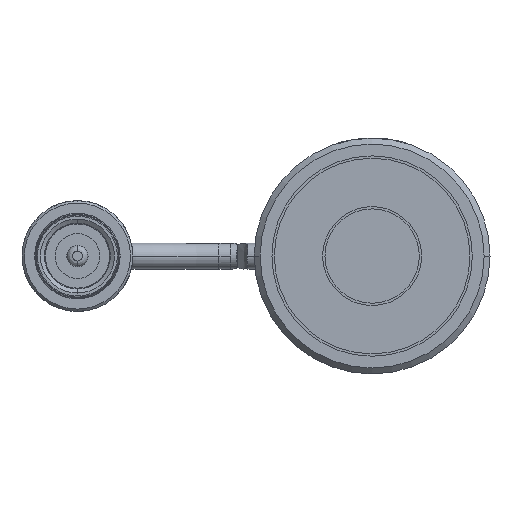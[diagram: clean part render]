
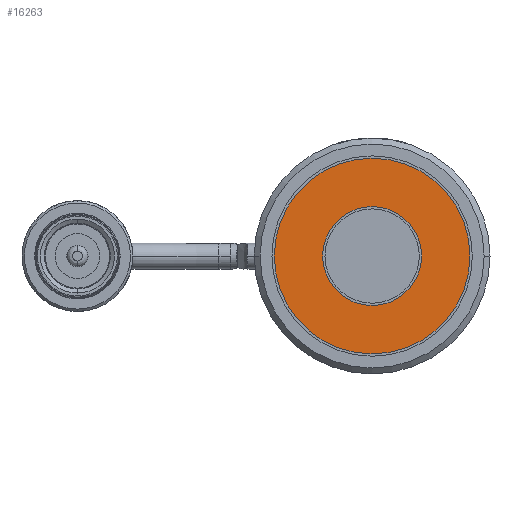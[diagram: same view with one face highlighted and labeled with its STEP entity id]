
A CAD part, front view. The second image highlights one B-rep face of the part: STEP entity #16263.
In plain terms, the highlighted planar face has unit normal (0, -1, 0).
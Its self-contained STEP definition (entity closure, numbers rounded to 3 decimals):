
#5032=CARTESIAN_POINT('',(0.,-21.,0.));
#5033=DIRECTION('',(0.,-1.,0.));
#5034=DIRECTION('',(-1.,0.,0.));
#5035=AXIS2_PLACEMENT_3D('',#5032,#5033,#5034);
#5037=CARTESIAN_POINT('',(0.,-21.,0.));
#5038=DIRECTION('',(0.,-1.,0.));
#5039=DIRECTION('',(1.,0.,0.));
#5040=AXIS2_PLACEMENT_3D('',#5037,#5038,#5039);
#5042=CARTESIAN_POINT('',(0.,-21.,0.));
#5043=DIRECTION('',(0.,-1.,0.));
#5044=DIRECTION('',(1.,0.,0.));
#5045=AXIS2_PLACEMENT_3D('',#5042,#5043,#5044);
#5047=CARTESIAN_POINT('',(0.,-21.,0.));
#5048=DIRECTION('',(0.,-1.,0.));
#5049=DIRECTION('',(-1.,0.,0.));
#5050=AXIS2_PLACEMENT_3D('',#5047,#5048,#5049);
#10155=CARTESIAN_POINT('',(-4.2,-21.,0.));
#10156=CARTESIAN_POINT('',(4.2,-21.,0.));
#10157=VERTEX_POINT('',#10155);
#10158=VERTEX_POINT('',#10156);
#10159=CARTESIAN_POINT('',(8.3,-21.,0.));
#10160=CARTESIAN_POINT('',(-8.3,-21.,0.));
#10161=VERTEX_POINT('',#10159);
#10162=VERTEX_POINT('',#10160);
#16246=CARTESIAN_POINT('',(0.,-21.,0.));
#16247=DIRECTION('',(0.,1.,0.));
#16248=DIRECTION('',(1.,0.,0.));
#16249=AXIS2_PLACEMENT_3D('',#16246,#16247,#16248);
#16250=PLANE('',#16249);
#16252=ORIENTED_EDGE('',*,*,#16251,.F.);
#16254=ORIENTED_EDGE('',*,*,#16253,.F.);
#16255=EDGE_LOOP('',(#16252,#16254));
#16256=FACE_OUTER_BOUND('',#16255,.F.);
#16258=ORIENTED_EDGE('',*,*,#16257,.T.);
#16260=ORIENTED_EDGE('',*,*,#16259,.T.);
#16261=EDGE_LOOP('',(#16258,#16260));
#16262=FACE_BOUND('',#16261,.F.);
#5036=CIRCLE('',#5035,4.2);
#5041=CIRCLE('',#5040,4.2);
#5046=CIRCLE('',#5045,8.3);
#5051=CIRCLE('',#5050,8.3);
#16251=EDGE_CURVE('',#10161,#10162,#5046,.T.);
#16253=EDGE_CURVE('',#10162,#10161,#5051,.T.);
#16257=EDGE_CURVE('',#10157,#10158,#5036,.T.);
#16259=EDGE_CURVE('',#10158,#10157,#5041,.T.);
#16263=ADVANCED_FACE('',(#16256,#16262),#16250,.F.);
